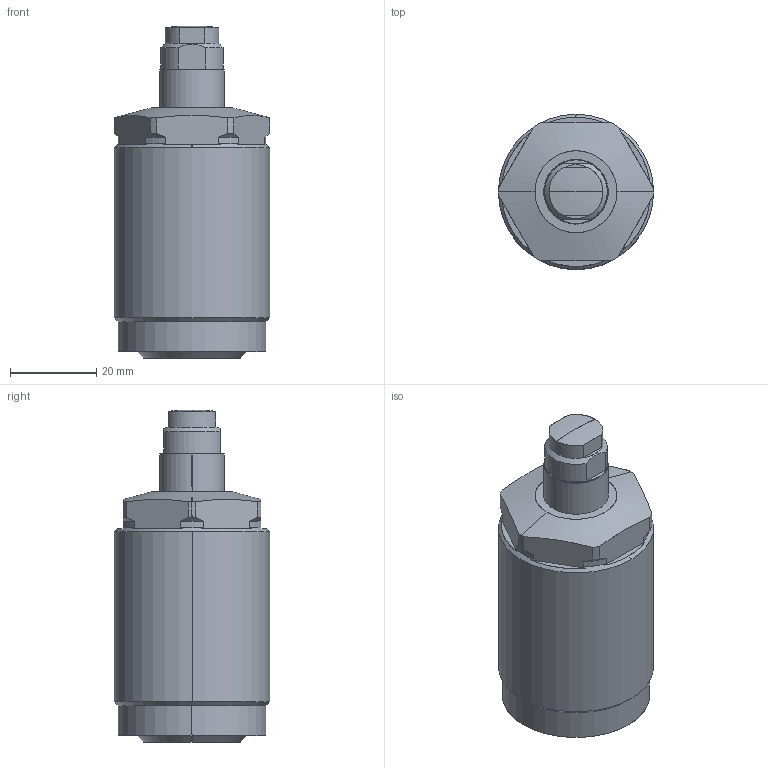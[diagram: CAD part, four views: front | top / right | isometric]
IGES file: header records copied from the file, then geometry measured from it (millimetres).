
Start section: SolidWorks IGES file using analytic representation for surfaces
Global section: file name: C:\Documents and Settings\nijil\My Documents\Clasys1\LDE Series\36\LD0362-x-E.IGS; native system: SolidWorks 2010; preprocessor: SolidWorks 2010; author: nijil; date: 130723.105936; units: millimetre
Bounding box: 36 x 36 x 77 mm (x, y, z)
Surface area: 9160.5 mm2 (no closed solid volume)
Topology: 0 solids, 0 shells, 80 faces, 1015 edges, 1013 vertices
Faces by surface type: revolution 48, bspline 32
